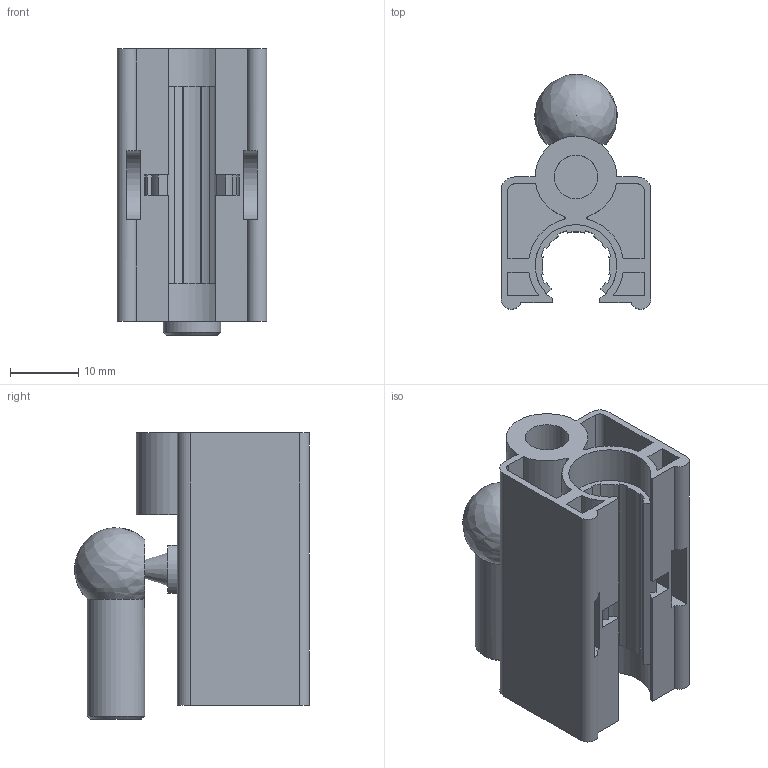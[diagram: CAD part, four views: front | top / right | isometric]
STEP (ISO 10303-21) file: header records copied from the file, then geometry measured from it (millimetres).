
FILE_DESCRIPTION (( 'STEP AP203' ), '1' );
FILE_NAME ('僗儔僀僟2Assy.STEP', '2017-09-22T04:26:58', ( '' ), ( '' ), 'SwSTEP 2.0', 'SolidWorks 2015', '' );
FILE_SCHEMA (( 'CONFIG_CONTROL_DESIGN' ));
Length unit declared in the file: millimetre
Products named in the file (1): スライダ2Assy
Bounding box: 22 x 34.48 x 42 mm (x, y, z)
Volume: 9492.1 mm3; surface area: 12160.8 mm2
Topology: 6 solids, 6 shells, 198 faces, 503 edges, 334 vertices
Faces by surface type: plane 128, cylinder 61, bspline 5, cone 4
Full cylindrical faces by diameter (mm): 2.5 x1, 3.75 x1, 4.134 x1, 5 x2, 6.4 x1, 6.5 x2, 8.4 x1
Entity records: 6188 total; most frequent: CARTESIAN_POINT 1313, DIRECTION 1009, ORIENTED_EDGE 962, EDGE_CURVE 481, AXIS2_PLACEMENT_3D 341, LINE 327, VERTEX_POINT 327, VECTOR 327
